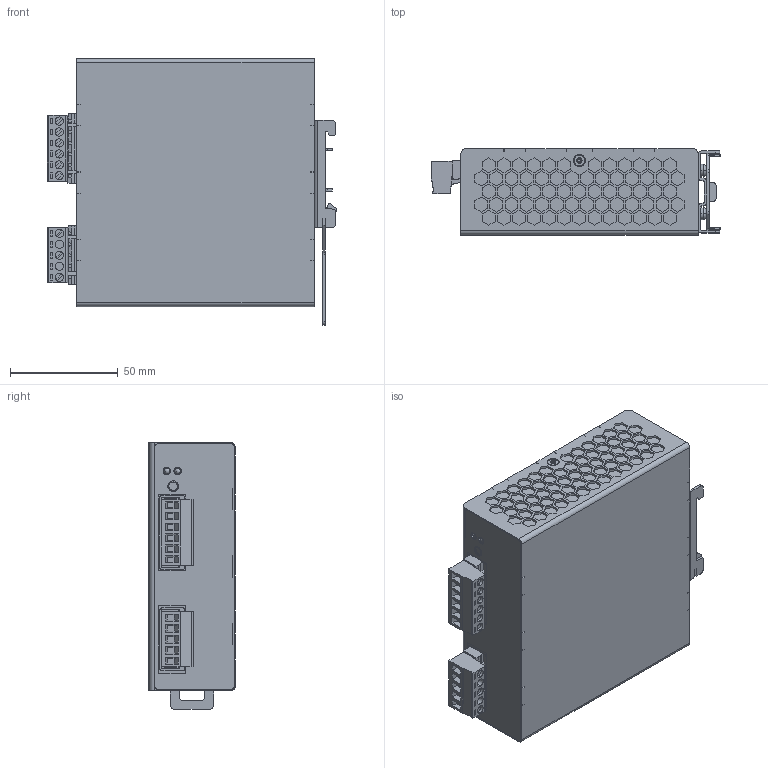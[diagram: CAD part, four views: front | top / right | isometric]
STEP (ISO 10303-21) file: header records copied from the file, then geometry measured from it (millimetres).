
FILE_DESCRIPTION (( 'STEP AP214' ), '1' );
FILE_NAME ('NPSW120_3D_light.STEP', '2016-04-27T12:05:01', ( 'miky' ), ( 'Microsoft' ), 'SwSTEP 2.0', 'SolidWorks 2014', '' );
FILE_SCHEMA (( 'AUTOMOTIVE_DESIGN' ));
Length unit declared in the file: millimetre
Products named in the file (1): NPSW120_3D_light
Bounding box: 134.19 x 40 x 123.7 mm (x, y, z)
Volume: 515532.2 mm3; surface area: 59896.6 mm2
Topology: 1 solids, 9 shells, 2119 faces, 5696 edges, 3738 vertices
Faces by surface type: plane 1739, cylinder 320, cone 46, bspline 8, torus 4, sphere 2
Entity records: 87383 total; most frequent: CARTESIAN_POINT 12469, ORIENTED_EDGE 11380, DIRECTION 10603, EDGE_CURVE 5690, VECTOR 4779, LINE 4779, VERTEX_POINT 3734, AXIS2_PLACEMENT_3D 2912
